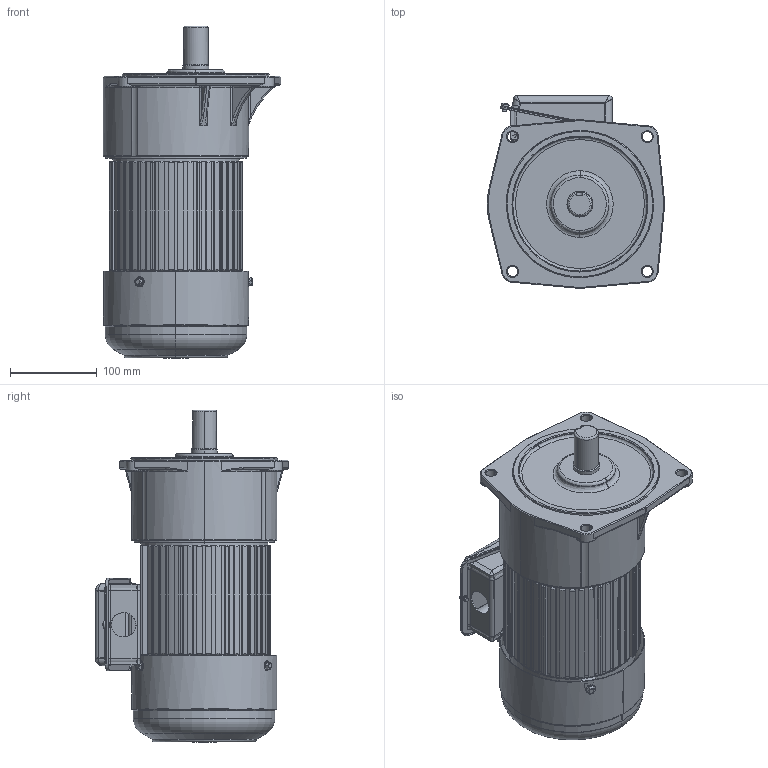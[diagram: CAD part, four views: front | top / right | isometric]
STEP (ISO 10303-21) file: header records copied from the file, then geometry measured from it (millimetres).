
FILE_DESCRIPTION (( 'STEP AP203' ), '1' );
FILE_NAME ('单相400W3#立式.STEP', '2015-10-31T04:38:08', ( '微软中国' ), ( '微软用户' ), 'SwSTEP 2.0', 'SolidWorks 2009', '' );
FILE_SCHEMA (( 'CONFIG_CONTROL_DESIGN' ));
Length unit declared in the file: millimetre
Products named in the file (11): 等眈 瑞欶400W; 3#蕾宒熬厒ん; 等眈諉盄碟窒璃; 等眈諉盄碟裔; 等眈400W; 等眈400W3#蕾宒; 400W儂褲; 鞠褒蹟邡_GB_FASTENER_BOLT_HFBB M5X10-N; 棠憤迖殤400W; 等眈諉盄碟釱; Cross recessed pan head screws GB_GB_CROSS_SCREWS_TYPE1 M5X6-6  H type-N
Assembly tree (12 placements, depth 4):
  等眈400W3#蕾宒
    等眈400W
      等眈諉盄碟窒璃
        等眈諉盄碟裔
        Cross recessed pan head screws GB_GB_CROSS_SCREWS_TYPE1 M5X6-6  H type-N
        等眈諉盄碟釱
      鞠褒蹟邡_GB_FASTENER_BOLT_HFBB M5X10-N  x3
      400W儂褲
      等眈 瑞欶400W
      棠憤迖殤400W
    3#蕾宒熬厒ん
Bounding box: 204.98 x 223.07 x 383.5 mm (x, y, z)
Volume: 3004550.1 mm3; surface area: 617695.7 mm2
Topology: 10 solids, 10 shells, 1476 faces, 4062 edges, 2624 vertices
Faces by surface type: plane 707, cylinder 446, bspline 253, torus 34, cone 34, sphere 2
Entity records: 58329 total; most frequent: CARTESIAN_POINT 22027, ORIENTED_EDGE 7902, DIRECTION 6501, EDGE_CURVE 3951, VERTEX_POINT 2570, VECTOR 2187, LINE 2187, AXIS2_PLACEMENT_3D 2157
